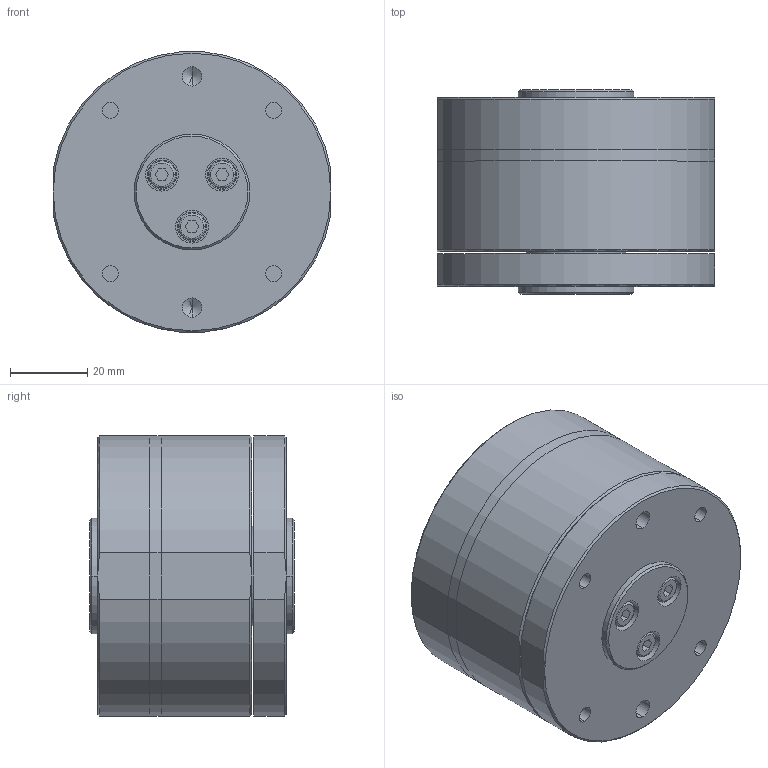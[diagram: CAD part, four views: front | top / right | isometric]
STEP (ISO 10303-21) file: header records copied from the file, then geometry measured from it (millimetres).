
FILE_DESCRIPTION (( 'STEP AP203' ), '1' );
FILE_NAME ('FCD-10RC-2T-DDM.STEP', '2022-07-15T01:06:50', ( '' ), ( '' ), 'SwSTEP 2.0', 'SolidWorks 2021', '' );
FILE_SCHEMA (( 'CONFIG_CONTROL_DESIGN' ));
Length unit declared in the file: millimetre
Products named in the file (1): FCD-10RC-2T-DDM
Bounding box: 72 x 53 x 72.75 mm (x, y, z)
Volume: 203495 mm3; surface area: 46364.7 mm2
Topology: 3 solids, 3 shells, 200 faces, 456 edges, 281 vertices
Faces by surface type: plane 84, cylinder 74, cone 28, torus 14
Entity records: 5605 total; most frequent: DIRECTION 1014, CARTESIAN_POINT 956, ORIENTED_EDGE 876, EDGE_CURVE 438, AXIS2_PLACEMENT_3D 387, VERTEX_POINT 281, EDGE_LOOP 245, LINE 240
